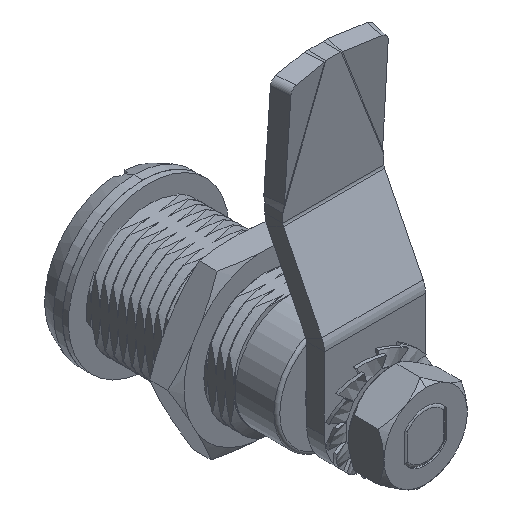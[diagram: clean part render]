
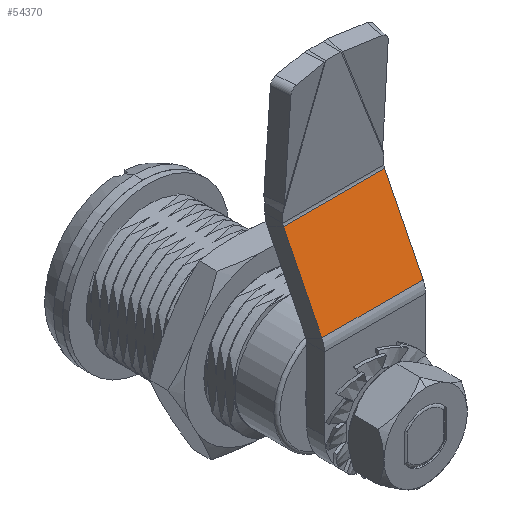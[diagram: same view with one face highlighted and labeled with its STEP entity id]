
A CAD part, isometric view. The second image highlights one B-rep face of the part: STEP entity #54370.
In plain terms, the highlighted planar face has unit normal (0, -0.894, 0.447) as drawn and (0.447, -0.894, 0) by its records, which use the part's own axes.
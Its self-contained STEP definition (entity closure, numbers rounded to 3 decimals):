
#177 = CARTESIAN_POINT ( 'NONE',  ( 22.553, -2.578, -8.5 ) ) ;
#1558 = PLANE ( 'NONE',  #59592 ) ;
#2186 = VERTEX_POINT ( 'NONE', #177 ) ;
#3845 = CARTESIAN_POINT ( 'NONE',  ( 22.553, -2.578, 8.5 ) ) ;
#3934 = CARTESIAN_POINT ( 'NONE',  ( 35.497, 3.894, -8.5 ) ) ;
#3977 = FACE_OUTER_BOUND ( 'NONE', #84494, .T. ) ;
#4051 = VECTOR ( 'NONE', #54709, 1000. ) ;
#8803 = DIRECTION ( 'NONE',  ( -0.894, -0.447, 0. ) ) ;
#12620 = VECTOR ( 'NONE', #68728, 1000. ) ;
#13334 = DIRECTION ( 'NONE',  ( 0.894, 0.447, 0. ) ) ;
#13804 = VECTOR ( 'NONE', #13334, 1000. ) ;
#18698 = VERTEX_POINT ( 'NONE', #49349 ) ;
#19547 = VERTEX_POINT ( 'NONE', #54851 ) ;
#20568 = CARTESIAN_POINT ( 'NONE',  ( 22.342, -2.683, 8.5 ) ) ;
#21002 = LINE ( 'NONE', #3845, #4051 ) ;
#25677 = EDGE_CURVE ( 'NONE', #19547, #80781, #38764, .T. ) ;
#28261 = ORIENTED_EDGE ( 'NONE', *, *, #25677, .F. ) ;
#33301 = LINE ( 'NONE', #20568, #61751 ) ;
#35410 = CARTESIAN_POINT ( 'NONE',  ( 22.342, -2.683, -8.5 ) ) ;
#38764 = LINE ( 'NONE', #61239, #12620 ) ;
#42120 = DIRECTION ( 'NONE',  ( 0.894, 0.447, 0. ) ) ;
#47897 = EDGE_CURVE ( 'NONE', #2186, #80781, #64926, .T. ) ;
#48969 = EDGE_CURVE ( 'NONE', #18698, #19547, #33301, .T. ) ;
#49349 = CARTESIAN_POINT ( 'NONE',  ( 22.553, -2.578, 8.5 ) ) ;
#51289 = ORIENTED_EDGE ( 'NONE', *, *, #48969, .F. ) ;
#51787 = CARTESIAN_POINT ( 'NONE',  ( 22.342, -2.683, 8.5 ) ) ;
#52064 = ORIENTED_EDGE ( 'NONE', *, *, #60535, .T. ) ;
#52426 = DIRECTION ( 'NONE',  ( -0.447, 0.894, 0. ) ) ;
#54370 = ADVANCED_FACE ( 'NONE', ( #3977 ), #1558, .F. ) ;
#54709 = DIRECTION ( 'NONE',  ( 0., 0., -1. ) ) ;
#54851 = CARTESIAN_POINT ( 'NONE',  ( 35.497, 3.894, 8.5 ) ) ;
#59592 = AXIS2_PLACEMENT_3D ( 'NONE', #51787, #52426, #8803 ) ;
#60535 = EDGE_CURVE ( 'NONE', #18698, #2186, #21002, .T. ) ;
#61239 = CARTESIAN_POINT ( 'NONE',  ( 35.497, 3.894, 8.5 ) ) ;
#61751 = VECTOR ( 'NONE', #42120, 1000. ) ;
#64926 = LINE ( 'NONE', #35410, #13804 ) ;
#68728 = DIRECTION ( 'NONE',  ( 0., 0., -1. ) ) ;
#77146 = ORIENTED_EDGE ( 'NONE', *, *, #47897, .T. ) ;
#80781 = VERTEX_POINT ( 'NONE', #3934 ) ;
#84494 = EDGE_LOOP ( 'NONE', ( #77146, #28261, #51289, #52064 ) ) ;
